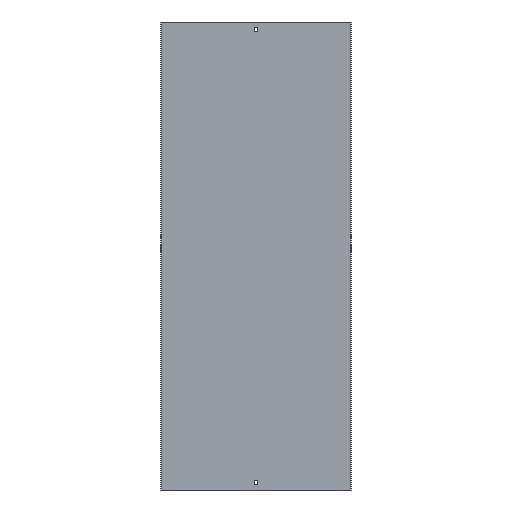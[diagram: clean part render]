
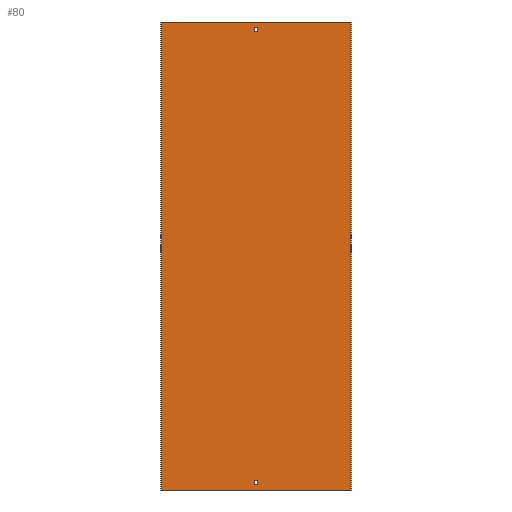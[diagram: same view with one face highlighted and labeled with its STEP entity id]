
A CAD part, front view. The second image highlights one B-rep face of the part: STEP entity #80.
In plain terms, the highlighted planar face has unit normal (0, -1, 0).
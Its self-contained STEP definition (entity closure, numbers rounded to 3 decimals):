
#2 = EDGE_CURVE ( 'NONE', #279, #77, #407, .T. ) ;
#16 = EDGE_CURVE ( 'NONE', #526, #74, #42, .T. ) ;
#17 = LINE ( 'NONE', #462, #387 ) ;
#18 = VERTEX_POINT ( 'NONE', #38 ) ;
#25 = EDGE_LOOP ( 'NONE', ( #118, #501, #196, #261 ) ) ;
#28 = VECTOR ( 'NONE', #415, 1000. ) ;
#34 = CARTESIAN_POINT ( 'NONE',  ( 202., -1.5, -500. ) ) ;
#36 = LINE ( 'NONE', #43, #380 ) ;
#37 = CARTESIAN_POINT ( 'NONE',  ( -203.5, -1.5, 488. ) ) ;
#38 = CARTESIAN_POINT ( 'NONE',  ( -3.25, -1.5, 479. ) ) ;
#42 = LINE ( 'NONE', #359, #551 ) ;
#43 = CARTESIAN_POINT ( 'NONE',  ( -203.5, -1.5, -488. ) ) ;
#47 = CARTESIAN_POINT ( 'NONE',  ( 202., -1.5, 500. ) ) ;
#51 = EDGE_CURVE ( 'NONE', #252, #18, #492, .T. ) ;
#52 = VECTOR ( 'NONE', #403, 1000. ) ;
#53 = DIRECTION ( 'NONE',  ( 0., 0., -1. ) ) ;
#61 = CARTESIAN_POINT ( 'NONE',  ( -3.25, -1.5, 500. ) ) ;
#62 = VERTEX_POINT ( 'NONE', #231 ) ;
#73 = LINE ( 'NONE', #107, #90 ) ;
#74 = VERTEX_POINT ( 'NONE', #241 ) ;
#77 = VERTEX_POINT ( 'NONE', #233 ) ;
#80 = ADVANCED_FACE ( 'NONE', ( #236, #519, #471 ), #420, .T. ) ;
#86 = DIRECTION ( 'NONE',  ( 0., 0., 1. ) ) ;
#90 = VECTOR ( 'NONE', #304, 1000. ) ;
#93 = ORIENTED_EDGE ( 'NONE', *, *, #454, .T. ) ;
#97 = CARTESIAN_POINT ( 'NONE',  ( 202., -1.5, 500. ) ) ;
#107 = CARTESIAN_POINT ( 'NONE',  ( -202., -1.5, 500. ) ) ;
#118 = ORIENTED_EDGE ( 'NONE', *, *, #16, .F. ) ;
#120 = LINE ( 'NONE', #220, #52 ) ;
#140 = CARTESIAN_POINT ( 'NONE',  ( 3.25, -1.5, 479. ) ) ;
#141 = DIRECTION ( 'NONE',  ( 0., -1., 0. ) ) ;
#145 = CARTESIAN_POINT ( 'NONE',  ( -203.5, -1.5, 500. ) ) ;
#163 = LINE ( 'NONE', #442, #328 ) ;
#172 = EDGE_CURVE ( 'NONE', #557, #286, #36, .T. ) ;
#175 = VERTEX_POINT ( 'NONE', #262 ) ;
#196 = ORIENTED_EDGE ( 'NONE', *, *, #488, .T. ) ;
#202 = ORIENTED_EDGE ( 'NONE', *, *, #273, .T. ) ;
#205 = VECTOR ( 'NONE', #86, 1000. ) ;
#214 = ORIENTED_EDGE ( 'NONE', *, *, #296, .T. ) ;
#217 = EDGE_LOOP ( 'NONE', ( #418, #93, #214, #202 ) ) ;
#220 = CARTESIAN_POINT ( 'NONE',  ( -203.5, -1.5, 500. ) ) ;
#231 = CARTESIAN_POINT ( 'NONE',  ( -202., -1.5, 500. ) ) ;
#233 = CARTESIAN_POINT ( 'NONE',  ( 3.25, -1.5, 488. ) ) ;
#235 = DIRECTION ( 'NONE',  ( 1., 0., 0. ) ) ;
#236 = FACE_BOUND ( 'NONE', #528, .T. ) ;
#238 = CARTESIAN_POINT ( 'NONE',  ( -203.5, -1.5, -479. ) ) ;
#241 = CARTESIAN_POINT ( 'NONE',  ( -202., -1.5, -500. ) ) ;
#242 = VERTEX_POINT ( 'NONE', #268 ) ;
#252 = VERTEX_POINT ( 'NONE', #463 ) ;
#257 = VECTOR ( 'NONE', #53, 1000. ) ;
#261 = ORIENTED_EDGE ( 'NONE', *, *, #412, .T. ) ;
#262 = CARTESIAN_POINT ( 'NONE',  ( 3.25, -1.5, -479. ) ) ;
#266 = CARTESIAN_POINT ( 'NONE',  ( 3.25, -1.5, -488. ) ) ;
#268 = CARTESIAN_POINT ( 'NONE',  ( -3.25, -1.5, -479. ) ) ;
#269 = EDGE_CURVE ( 'NONE', #587, #526, #379, .T. ) ;
#273 = EDGE_CURVE ( 'NONE', #175, #557, #17, .T. ) ;
#274 = DIRECTION ( 'NONE',  ( 1., 0., 0. ) ) ;
#279 = VERTEX_POINT ( 'NONE', #140 ) ;
#283 = AXIS2_PLACEMENT_3D ( 'NONE', #145, #141, #504 ) ;
#285 = DIRECTION ( 'NONE',  ( 0., 0., -1. ) ) ;
#286 = VERTEX_POINT ( 'NONE', #374 ) ;
#293 = LINE ( 'NONE', #238, #318 ) ;
#296 = EDGE_CURVE ( 'NONE', #242, #175, #293, .T. ) ;
#304 = DIRECTION ( 'NONE',  ( 0., 0., -1. ) ) ;
#318 = VECTOR ( 'NONE', #235, 1000. ) ;
#327 = DIRECTION ( 'NONE',  ( -1., 0., 0. ) ) ;
#328 = VECTOR ( 'NONE', #274, 1000. ) ;
#359 = CARTESIAN_POINT ( 'NONE',  ( -203.5, -1.5, -500. ) ) ;
#374 = CARTESIAN_POINT ( 'NONE',  ( -3.25, -1.5, -488. ) ) ;
#379 = LINE ( 'NONE', #97, #28 ) ;
#380 = VECTOR ( 'NONE', #327, 1000. ) ;
#387 = VECTOR ( 'NONE', #285, 1000. ) ;
#399 = DIRECTION ( 'NONE',  ( -1., 0., 0. ) ) ;
#403 = DIRECTION ( 'NONE',  ( -1., 0., 0. ) ) ;
#407 = LINE ( 'NONE', #446, #205 ) ;
#411 = VECTOR ( 'NONE', #491, 1000. ) ;
#412 = EDGE_CURVE ( 'NONE', #62, #74, #73, .T. ) ;
#415 = DIRECTION ( 'NONE',  ( 0., 0., -1. ) ) ;
#418 = ORIENTED_EDGE ( 'NONE', *, *, #172, .T. ) ;
#420 = PLANE ( 'NONE',  #283 ) ;
#435 = ORIENTED_EDGE ( 'NONE', *, *, #535, .F. ) ;
#442 = CARTESIAN_POINT ( 'NONE',  ( -203.5, -1.5, 479. ) ) ;
#446 = CARTESIAN_POINT ( 'NONE',  ( 3.25, -1.5, 500. ) ) ;
#448 = LINE ( 'NONE', #37, #509 ) ;
#454 = EDGE_CURVE ( 'NONE', #286, #242, #583, .T. ) ;
#462 = CARTESIAN_POINT ( 'NONE',  ( 3.25, -1.5, 500. ) ) ;
#463 = CARTESIAN_POINT ( 'NONE',  ( -3.25, -1.5, 488. ) ) ;
#471 = FACE_BOUND ( 'NONE', #217, .T. ) ;
#477 = ORIENTED_EDGE ( 'NONE', *, *, #2, .F. ) ;
#488 = EDGE_CURVE ( 'NONE', #587, #62, #120, .T. ) ;
#491 = DIRECTION ( 'NONE',  ( 0., 0., 1. ) ) ;
#492 = LINE ( 'NONE', #61, #257 ) ;
#501 = ORIENTED_EDGE ( 'NONE', *, *, #269, .F. ) ;
#504 = DIRECTION ( 'NONE',  ( 0., 0., -1. ) ) ;
#509 = VECTOR ( 'NONE', #510, 1000. ) ;
#510 = DIRECTION ( 'NONE',  ( -1., 0., 0. ) ) ;
#519 = FACE_OUTER_BOUND ( 'NONE', #25, .T. ) ;
#526 = VERTEX_POINT ( 'NONE', #34 ) ;
#528 = EDGE_LOOP ( 'NONE', ( #547, #529, #477, #435 ) ) ;
#529 = ORIENTED_EDGE ( 'NONE', *, *, #567, .F. ) ;
#535 = EDGE_CURVE ( 'NONE', #18, #279, #163, .T. ) ;
#544 = CARTESIAN_POINT ( 'NONE',  ( -3.25, -1.5, 500. ) ) ;
#547 = ORIENTED_EDGE ( 'NONE', *, *, #51, .F. ) ;
#551 = VECTOR ( 'NONE', #399, 1000. ) ;
#557 = VERTEX_POINT ( 'NONE', #266 ) ;
#567 = EDGE_CURVE ( 'NONE', #77, #252, #448, .T. ) ;
#583 = LINE ( 'NONE', #544, #411 ) ;
#587 = VERTEX_POINT ( 'NONE', #47 ) ;
